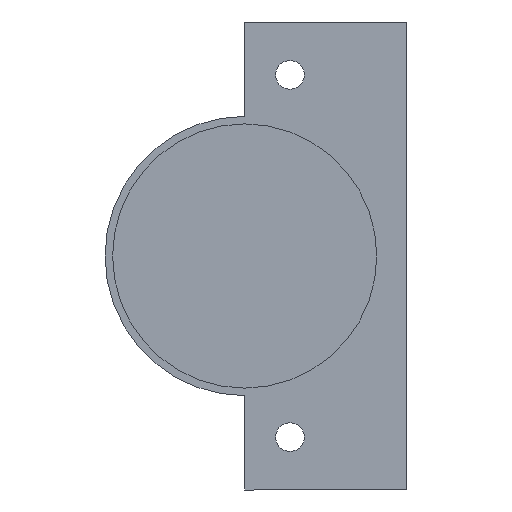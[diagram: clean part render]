
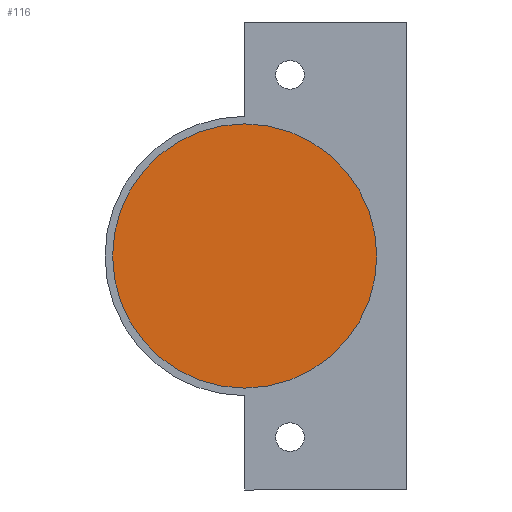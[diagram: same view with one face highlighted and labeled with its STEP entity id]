
A CAD part, front view. The second image highlights one B-rep face of the part: STEP entity #116.
In plain terms, the highlighted planar face has unit normal (0, -1, 0).
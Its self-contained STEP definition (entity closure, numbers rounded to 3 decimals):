
#19 = PLANE ( 'NONE',  #596 ) ;
#67 = CARTESIAN_POINT ( 'NONE',  ( 5.5, -12.6, 0. ) ) ;
#85 = ORIENTED_EDGE ( 'NONE', *, *, #604, .T. ) ;
#86 = DIRECTION ( 'NONE',  ( 0., -1., 0. ) ) ;
#87 = VERTEX_POINT ( 'NONE', #474 ) ;
#116 = ADVANCED_FACE ( 'NONE', ( #417 ), #19, .T. ) ;
#278 = DIRECTION ( 'NONE',  ( 1., 0., 0. ) ) ;
#319 = DIRECTION ( 'NONE',  ( 0., -1., 0. ) ) ;
#329 = CARTESIAN_POINT ( 'NONE',  ( 5.5, -12.6, 0. ) ) ;
#388 = CARTESIAN_POINT ( 'NONE',  ( 23., -12.6, 0. ) ) ;
#417 = FACE_OUTER_BOUND ( 'NONE', #1331, .T. ) ;
#465 = AXIS2_PLACEMENT_3D ( 'NONE', #1337, #1335, #1333 ) ;
#474 = CARTESIAN_POINT ( 'NONE',  ( -12., -12.6, 0. ) ) ;
#512 = AXIS2_PLACEMENT_3D ( 'NONE', #329, #319, #278 ) ;
#596 = AXIS2_PLACEMENT_3D ( 'NONE', #67, #86, #1498 ) ;
#604 = EDGE_CURVE ( 'NONE', #87, #1465, #930, .T. ) ;
#870 = CIRCLE ( 'NONE', #465, 17.5 ) ;
#930 = CIRCLE ( 'NONE', #512, 17.5 ) ;
#986 = EDGE_CURVE ( 'NONE', #1465, #87, #870, .T. ) ;
#1331 = EDGE_LOOP ( 'NONE', ( #85, #1439 ) ) ;
#1333 = DIRECTION ( 'NONE',  ( 1., 0., 0. ) ) ;
#1335 = DIRECTION ( 'NONE',  ( 0., -1., 0. ) ) ;
#1337 = CARTESIAN_POINT ( 'NONE',  ( 5.5, -12.6, 0. ) ) ;
#1439 = ORIENTED_EDGE ( 'NONE', *, *, #986, .T. ) ;
#1465 = VERTEX_POINT ( 'NONE', #388 ) ;
#1498 = DIRECTION ( 'NONE',  ( 1., 0., 0. ) ) ;
